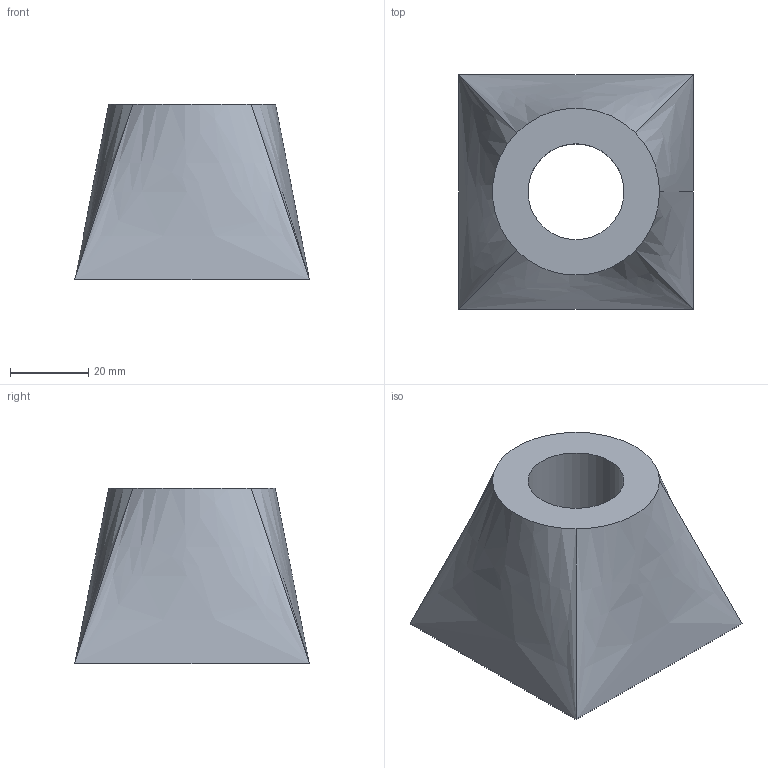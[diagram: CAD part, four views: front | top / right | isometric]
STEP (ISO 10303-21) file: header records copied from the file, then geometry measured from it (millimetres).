
FILE_DESCRIPTION(('Mechanical CAD reference from nasji.com'),'2;1');
FILE_NAME('NASJI.step','',(''),(''),'','NASJI distribution','');
FILE_SCHEMA(('AUTOMOTIVE_DESIGN { 1 0 10303 214 1 1 1 1 }'));
Length unit declared in the file: millimetre
Products named in the file (1): Open CASCADE STEP translator 7.8 134
Bounding box: 60 x 60 x 44.8 mm (x, y, z)
Volume: 88469.7 mm3; surface area: 16081.5 mm2
Topology: 1 solids, 1 shells, 8 faces, 18 edges, 12 vertices
Faces by surface type: bspline 5, plane 2, cylinder 1
Full cylindrical faces by diameter (mm): 24.5 x1
Entity records: 536 total; most frequent: CARTESIAN_POINT 172, DIRECTION 58, ORIENTED_EDGE 36, PCURVE 36, DEFINITIONAL_REPRESENTATION 36, LINE 30, VECTOR 30, EDGE_CURVE 18
